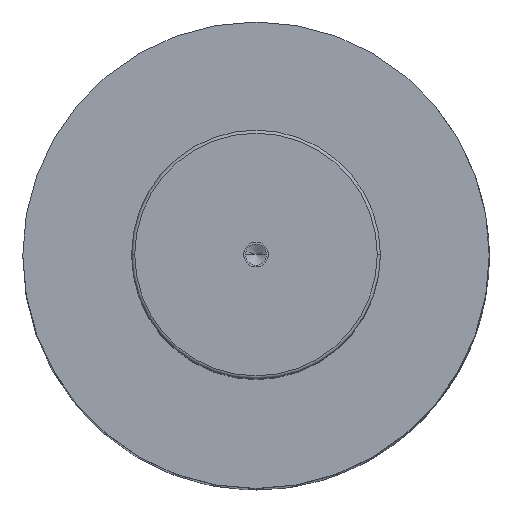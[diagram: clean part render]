
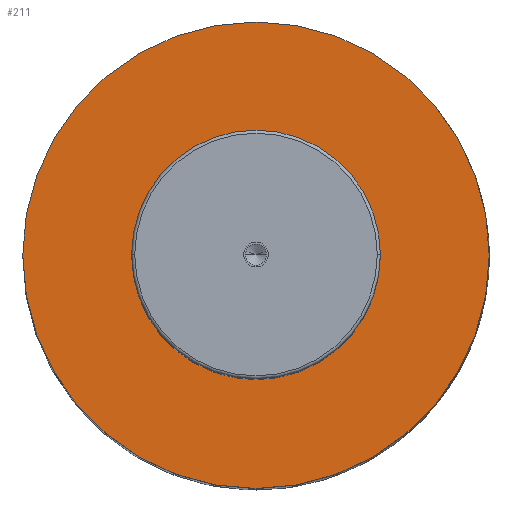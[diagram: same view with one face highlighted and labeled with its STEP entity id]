
A CAD part, top view. The second image highlights one B-rep face of the part: STEP entity #211.
In plain terms, the highlighted planar face has unit normal (0, 0, 1).
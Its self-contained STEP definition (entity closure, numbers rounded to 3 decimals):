
#109=PLANE('',#1266);
#138=FACE_BOUND('',#359,.T.);
#139=FACE_BOUND('',#360,.T.);
#211=ADVANCED_FACE('',(#138,#139),#109,.T.);
#359=EDGE_LOOP('',(#571,#572));
#360=EDGE_LOOP('',(#573,#574));
#451=CIRCLE('',#1260,40.);
#452=CIRCLE('',#1262,40.);
#453=CIRCLE('',#1264,75.);
#454=CIRCLE('',#1265,75.);
#571=ORIENTED_EDGE('',*,*,#970,.F.);
#572=ORIENTED_EDGE('',*,*,#971,.F.);
#573=ORIENTED_EDGE('',*,*,#969,.T.);
#574=ORIENTED_EDGE('',*,*,#967,.T.);
#856=VERTEX_POINT('',#1837);
#857=VERTEX_POINT('',#1839);
#858=VERTEX_POINT('',#1845);
#859=VERTEX_POINT('',#1846);
#967=EDGE_CURVE('',#857,#856,#451,.T.);
#969=EDGE_CURVE('',#856,#857,#452,.T.);
#970=EDGE_CURVE('',#858,#859,#453,.T.);
#971=EDGE_CURVE('',#859,#858,#454,.T.);
#1260=AXIS2_PLACEMENT_3D('',#1838,#1456,#1457);
#1262=AXIS2_PLACEMENT_3D('',#1842,#1461,#1462);
#1264=AXIS2_PLACEMENT_3D('',#1844,#1465,#1466);
#1265=AXIS2_PLACEMENT_3D('',#1847,#1467,#1468);
#1266=AXIS2_PLACEMENT_3D('',#1848,#1469,#1470);
#1456=DIRECTION('',(0.,0.,-1.));
#1457=DIRECTION('',(0.,1.,0.));
#1461=DIRECTION('',(0.,0.,-1.));
#1462=DIRECTION('',(0.,-1.,0.));
#1465=DIRECTION('',(0.,0.,-1.));
#1466=DIRECTION('',(0.,1.,0.));
#1467=DIRECTION('',(0.,0.,-1.));
#1468=DIRECTION('',(0.,-1.,0.));
#1469=DIRECTION('',(0.,0.,1.));
#1470=DIRECTION('',(0.,-1.,0.));
#1837=CARTESIAN_POINT('',(-40.,0.,277.));
#1838=CARTESIAN_POINT('',(0.,0.,277.));
#1839=CARTESIAN_POINT('',(40.,0.,277.));
#1842=CARTESIAN_POINT('',(0.,0.,277.));
#1844=CARTESIAN_POINT('',(0.,0.,277.));
#1845=CARTESIAN_POINT('',(75.,0.,277.));
#1846=CARTESIAN_POINT('',(-75.,0.,277.));
#1847=CARTESIAN_POINT('',(0.,0.,277.));
#1848=CARTESIAN_POINT('',(0.,0.,277.));
